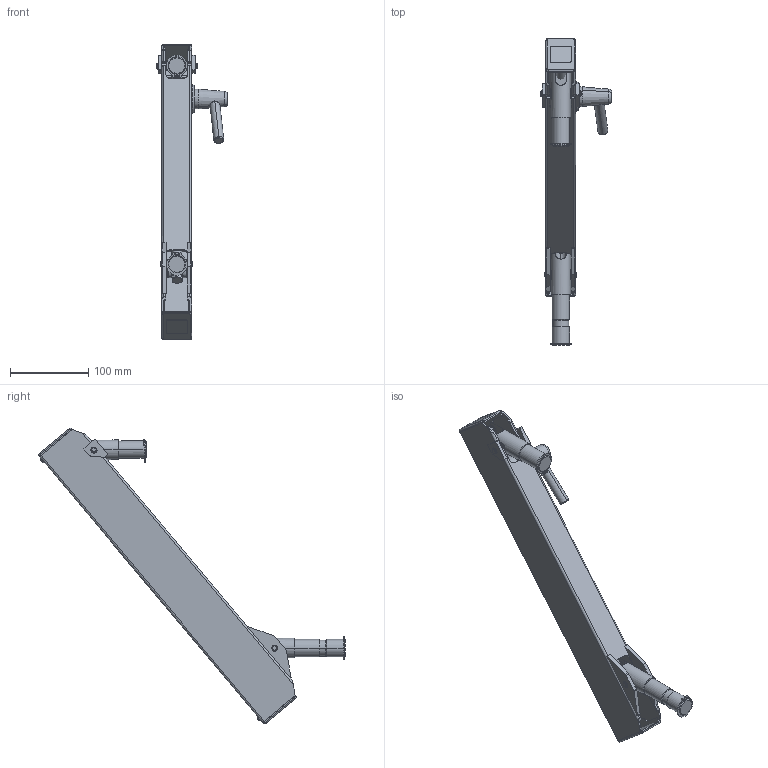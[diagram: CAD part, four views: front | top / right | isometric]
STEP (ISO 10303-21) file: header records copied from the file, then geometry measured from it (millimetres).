
FILE_DESCRIPTION (( 'STEP AP203' ), '1' );
FILE_NAME ('70-1343-00 REV AA, FLEX SECTION, 13.5in, 18-43 LB - UP.STEP', '2025-07-09T23:30:02', ( '' ), ( '' ), 'SwSTEP 2.0', 'SolidWorks 2025', '' );
FILE_SCHEMA (( 'CONFIG_CONTROL_DESIGN' ));
Length unit declared in the file: inch
Products named in the file (32): 006-059-00; 11-0027-RX REV AA, PLASTIC DISC, BRAKE ASSEMBLY_MACHINE; 71-0029-RX REV AA, TAB, LOAD; 011-033-00; 71-0040-RX REV AA, BRAKE BLOCK, WIDE_MACHINE; 71-0037-RX REV AA, PIVOT, THREADED; 11-0602-RX REV AA, HANDLE, BRAKE ASSEMBLY; 004-050-00, WASHER, FIBER, .032 THK, .265ID; 71-0070-RX REV AA, AXLE PIN, SHORT; 11-0650-00 REV AA, BRAKE HANDLE ASSEMBLY; 71-0071-RX REV AA, AXLE PIN, LONG; 005-084-00, BOLT, 1''4-20x2.75; 11-0601-99 REV AA, CONICAL KNOB, BRAKE ASSEMBLY; 71-0038-RX REV AA, PIVOT, KNUCKLE, ELECTROLESS NICKEL; 010-012-00, RETAINING RING, EXTERNAL, .875in SHAFT; 013-036-00, SPRING, GREEN, 1x8_ISO425203; 010-011-00, RETAINING RING, EXT, .250 SHAFT_010-011-00; 71-1032-RX REV AA, SPRING ROD, 13.5in FLEX; 011-020-00 REV AA, PIN, KNURLED, 1.0LG x .25OD; 71-1301-BLKX REV AA, FLEX HOUSING, 13.5in, BLACK_Weld; 006-004-00_006-004-00; 016-070-00, BEARING, PLASTIC, .5ID x .625 OD x .75; 71-0972-99 REV AA, END CAP, FLEX; 71-0028-RX REV AA, TAB, MOUNT_MACHINE; 71-0031-RX REV AA, KNUCKLE, MOUNT_MACHINE; 71-1051-RX REV AA, SPRING BLOCK; 004-144-00; 71-1033-RX REV AA, BOLT, ADJUSTING, 10.9; 71-1300-RX REV AA, HOUSING, 13.5in FLEX; 002-041-00_002-041-00; 71-0030-RX REV AA, KNUCKLE, LOAD_MACHINE; 70-1343-00 REV AA, FLEX SECTION, 13.5in, 18-43 LB - UP
Assembly tree (52 placements, depth 3):
  70-1343-00 REV AA, FLEX SECTION, 13.5in, 18-43 LB - UP
    71-0031-RX REV AA, KNUCKLE, MOUNT_MACHINE
    71-1032-RX REV AA, SPRING ROD, 13.5in FLEX
    71-0030-RX REV AA, KNUCKLE, LOAD_MACHINE
    71-0038-RX REV AA, PIVOT, KNUCKLE, ELECTROLESS NICKEL
    71-1033-RX REV AA, BOLT, ADJUSTING, 10.9
    71-0037-RX REV AA, PIVOT, THREADED
    71-0040-RX REV AA, BRAKE BLOCK, WIDE_MACHINE
    71-1051-RX REV AA, SPRING BLOCK
    71-1301-BLKX REV AA, FLEX HOUSING, 13.5in, BLACK_Weld
      71-1300-RX REV AA, HOUSING, 13.5in FLEX
      71-0029-RX REV AA, TAB, LOAD  x2
      71-0028-RX REV AA, TAB, MOUNT_MACHINE  x2
    71-0070-RX REV AA, AXLE PIN, SHORT
    71-0071-RX REV AA, AXLE PIN, LONG
    71-0972-99 REV AA, END CAP, FLEX  x2
    11-0027-RX REV AA, PLASTIC DISC, BRAKE ASSEMBLY_MACHINE
    11-0650-00 REV AA, BRAKE HANDLE ASSEMBLY
      11-0601-99 REV AA, CONICAL KNOB, BRAKE ASSEMBLY
      11-0602-RX REV AA, HANDLE, BRAKE ASSEMBLY
      11-0027-RX REV AA, PLASTIC DISC, BRAKE ASSEMBLY_MACHINE
      005-084-00, BOLT, 1''4-20x2.75
    006-004-00_006-004-00  x2
    002-041-00_002-041-00  x2
    010-012-00, RETAINING RING, EXTERNAL, .875in SHAFT  x2
    010-011-00, RETAINING RING, EXT, .250 SHAFT_010-011-00  x4
    011-033-00
    004-050-00, WASHER, FIBER, .032 THK, .265ID  x8
    011-020-00 REV AA, PIN, KNURLED, 1.0LG x .25OD  x2
    004-144-00  x3
    006-059-00
    013-036-00, SPRING, GREEN, 1x8_ISO425203
    016-070-00, BEARING, PLASTIC, .5ID x .625 OD x .75  x2
Bounding box: 91.63 x 392.56 x 378.83 mm (x, y, z)
Volume: 476653.1 mm3; surface area: 308090.8 mm2
Topology: 52 solids, 52 shells, 1069 faces, 2616 edges, 1646 vertices
Faces by surface type: cylinder 447, plane 371, cone 176, torus 45, bspline 24, sphere 6
Entity records: 61171 total; most frequent: CARTESIAN_POINT 39929, ORIENTED_EDGE 3626, DIRECTION 3592, EDGE_CURVE 1813, AXIS2_PLACEMENT_3D 1370, VERTEX_POINT 1140, VECTOR 852, LINE 852
